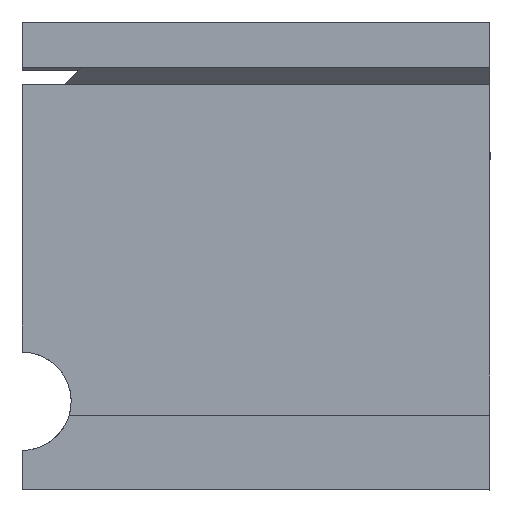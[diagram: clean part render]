
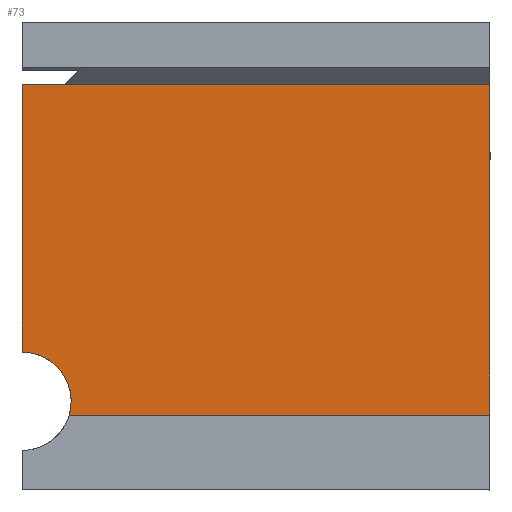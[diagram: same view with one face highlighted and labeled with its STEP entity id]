
A CAD part, left-side view. The second image highlights one B-rep face of the part: STEP entity #73.
In plain terms, the highlighted planar face has unit normal (-1, 0, 0).
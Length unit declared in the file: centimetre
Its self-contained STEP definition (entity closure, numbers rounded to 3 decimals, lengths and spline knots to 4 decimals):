
#34 = CARTESIAN_POINT ( 'NONE',  ( 0., 1000., 1000. ) ) ;
#38 = DIRECTION ( 'NONE',  ( 0., 0., -1. ) ) ;
#49 = ORIENTED_EDGE ( 'NONE', *, *, #954, .F. ) ;
#65 = EDGE_CURVE ( 'NONE', #475, #1026, #388, .T. ) ;
#72 = VERTEX_POINT ( 'NONE', #291 ) ;
#73 = ADVANCED_FACE ( 'NONE', ( #796 ), #313, .F. ) ;
#88 = DIRECTION ( 'NONE',  ( -1., 0., 0. ) ) ;
#94 = CIRCLE ( 'NONE', #1083, 105.149 ) ;
#116 = ORIENTED_EDGE ( 'NONE', *, *, #495, .F. ) ;
#133 = VERTEX_POINT ( 'NONE', #209 ) ;
#157 = LINE ( 'NONE', #966, #686 ) ;
#164 = DIRECTION ( 'NONE',  ( 0., -1., 0. ) ) ;
#209 = CARTESIAN_POINT ( 'NONE',  ( 0., 0., 866.9573 ) ) ;
#211 = CARTESIAN_POINT ( 'NONE',  ( 0., 1000., 1000. ) ) ;
#291 = CARTESIAN_POINT ( 'NONE',  ( 0., 0., 160.0442 ) ) ;
#313 = PLANE ( 'NONE',  #485 ) ;
#326 = ORIENTED_EDGE ( 'NONE', *, *, #1003, .T. ) ;
#376 = DIRECTION ( 'NONE',  ( 0., -1., 0. ) ) ;
#388 = LINE ( 'NONE', #34, #428 ) ;
#428 = VECTOR ( 'NONE', #38, 100. ) ;
#449 = VECTOR ( 'NONE', #690, 100. ) ;
#475 = VERTEX_POINT ( 'NONE', #852 ) ;
#485 = AXIS2_PLACEMENT_3D ( 'NONE', #211, #652, #808 ) ;
#495 = EDGE_CURVE ( 'NONE', #1025, #1026, #94, .T. ) ;
#522 = EDGE_CURVE ( 'NONE', #133, #72, #589, .T. ) ;
#572 = ORIENTED_EDGE ( 'NONE', *, *, #65, .T. ) ;
#578 = LINE ( 'NONE', #583, #882 ) ;
#583 = CARTESIAN_POINT ( 'NONE',  ( 0., 1000., 866.9573 ) ) ;
#589 = LINE ( 'NONE', #935, #449 ) ;
#608 = DIRECTION ( 'NONE',  ( 0., 0., 1. ) ) ;
#652 = DIRECTION ( 'NONE',  ( 1., 0., 0. ) ) ;
#677 = CARTESIAN_POINT ( 'NONE',  ( 0., 1000., 189.5482 ) ) ;
#686 = VECTOR ( 'NONE', #376, 100. ) ;
#690 = DIRECTION ( 'NONE',  ( 0., 0., -1. ) ) ;
#796 = FACE_OUTER_BOUND ( 'NONE', #824, .T. ) ;
#808 = DIRECTION ( 'NONE',  ( 0., 0., -1. ) ) ;
#812 = ORIENTED_EDGE ( 'NONE', *, *, #522, .F. ) ;
#824 = EDGE_LOOP ( 'NONE', ( #812, #49, #572, #116, #326 ) ) ;
#852 = CARTESIAN_POINT ( 'NONE',  ( 0., 1000., 866.9573 ) ) ;
#882 = VECTOR ( 'NONE', #164, 100. ) ;
#933 = CARTESIAN_POINT ( 'NONE',  ( 0., 899.0752, 160.0442 ) ) ;
#935 = CARTESIAN_POINT ( 'NONE',  ( 0., 0., 1000. ) ) ;
#954 = EDGE_CURVE ( 'NONE', #475, #133, #578, .T. ) ;
#966 = CARTESIAN_POINT ( 'NONE',  ( 0., 1000., 160.0442 ) ) ;
#1003 = EDGE_CURVE ( 'NONE', #1025, #72, #157, .T. ) ;
#1019 = CARTESIAN_POINT ( 'NONE',  ( 0., 1000., 294.6971 ) ) ;
#1025 = VERTEX_POINT ( 'NONE', #933 ) ;
#1026 = VERTEX_POINT ( 'NONE', #1019 ) ;
#1083 = AXIS2_PLACEMENT_3D ( 'NONE', #677, #88, #608 ) ;
